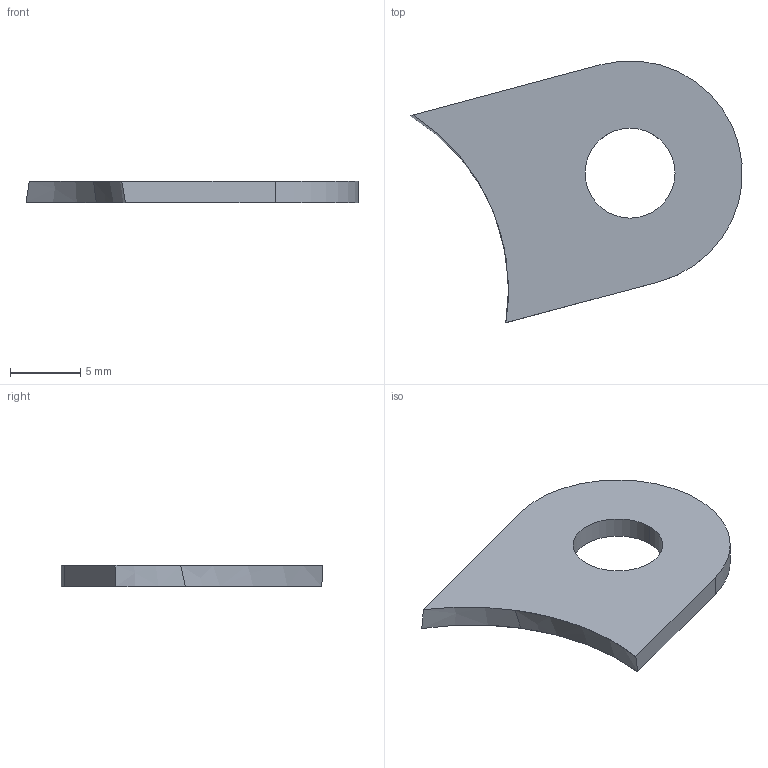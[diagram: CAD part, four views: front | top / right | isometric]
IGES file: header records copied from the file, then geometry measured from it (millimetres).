
Start section: START RECORD GO HERE.
Global section: file name: EN_17102 (Chape Admission Optimus 2).igs; native system: IBM CATIA IGES - CATIA Version 5 Release 19 ; preprocessor: CATIA Version 5 Release 19 ; author: Aimery SAULIERE; organization: MRY-987EC; date: 20200123.232705; units: millimetre
Bounding box: 23.64 x 18.62 x 1.5 mm (x, y, z)
Surface area: 616.8 mm2 (no closed solid volume)
Topology: 0 solids, 0 shells, 9 faces, 43 edges, 45 vertices
Faces by surface type: revolution 5, plane 4
